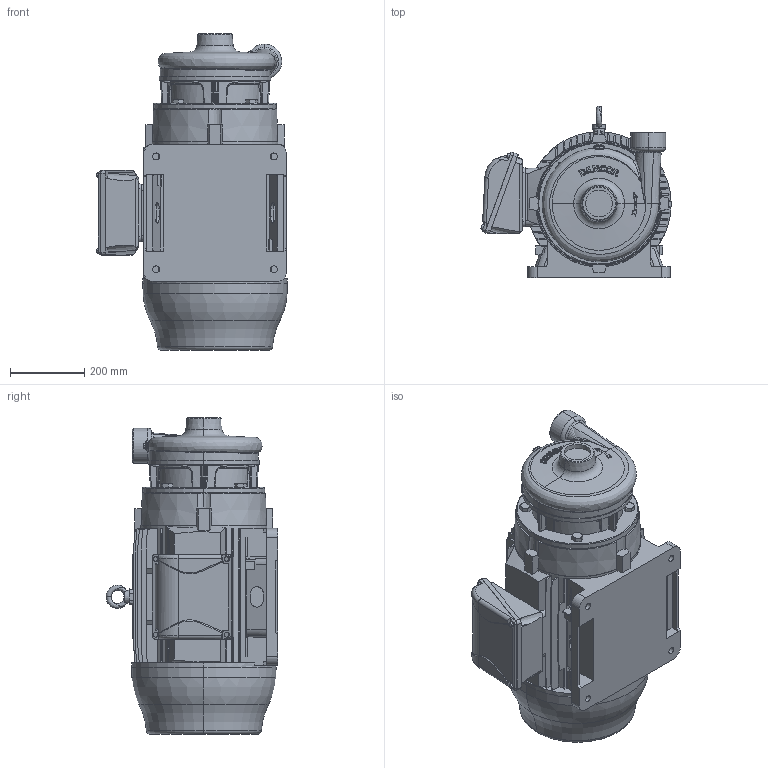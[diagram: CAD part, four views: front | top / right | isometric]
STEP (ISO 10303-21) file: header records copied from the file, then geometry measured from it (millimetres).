
FILE_DESCRIPTION (( 'STEP AP214' ), '1' );
FILE_NAME ('BOMBA 89-62 TJM 2.1-2'''' 50,0CV T 4V INC IR3.STEP', '2026-06-08T14:47:00', ( '' ), ( '' ), 'SwSTEP 2.0', 'SolidWorks 2025', '' );
FILE_SCHEMA (( 'AUTOMOTIVE_DESIGN' ));
Length unit declared in the file: millimetre
Products named in the file (7): INTERMEDIARIA 89-62 FC279 - 60460002; PARAFUSO SEXTAVADO UNC 5-8'''' X 1'''' ZB SALT SPREY 96h - 60700167; PLUG DE ESCORVA LATÃO 3-8'''' - 60550166; BOMBA 89-62 TJM 2.1-2'''' 50,0CV T 4V INC IR3; PARAFUSO SEXTAVADO UNC 3-8'''' x 1'''' SALT SPRAY 96h - 60700183; 14820106 - MOTOR WEG IP55 ST JM 50,0CV T 4V 2P 60 HZ FC279 200L IR3; CARCA_A 89-62 2.1-2'''' X 2.1-2'''' - 60380002
Assembly tree (16 placements, depth 2):
  BOMBA 89-62 TJM 2.1-2'''' 50,0CV T 4V INC IR3
    14820106 - MOTOR WEG IP55 ST JM 50,0CV T 4V 2P 60 HZ FC279 200L IR3
    INTERMEDIARIA 89-62 FC279 - 60460002
    CARCA_A 89-62 2.1-2'''' X 2.1-2'''' - 60380002
    PARAFUSO SEXTAVADO UNC 5-8'''' X 1'''' ZB SALT SPREY 96h - 60700167  x4
    PARAFUSO SEXTAVADO UNC 3-8'''' x 1'''' SALT SPRAY 96h - 60700183  x8
    PLUG DE ESCORVA LATÃO 3-8'''' - 60550166
Bounding box: 514.65 x 463.99 x 854.51 mm (x, y, z)
Volume: 92646866.6 mm3; surface area: 2544843.9 mm2
Topology: 18 solids, 18 shells, 1304 faces, 3306 edges, 2096 vertices
Faces by surface type: plane 583, cylinder 307, cone 216, bspline 141, torus 46, sphere 11
Entity records: 43193 total; most frequent: CARTESIAN_POINT 19807, ORIENTED_EDGE 5302, DIRECTION 4143, EDGE_CURVE 2651, VERTEX_POINT 1714, AXIS2_PLACEMENT_3D 1473, LINE 1197, VECTOR 1197
